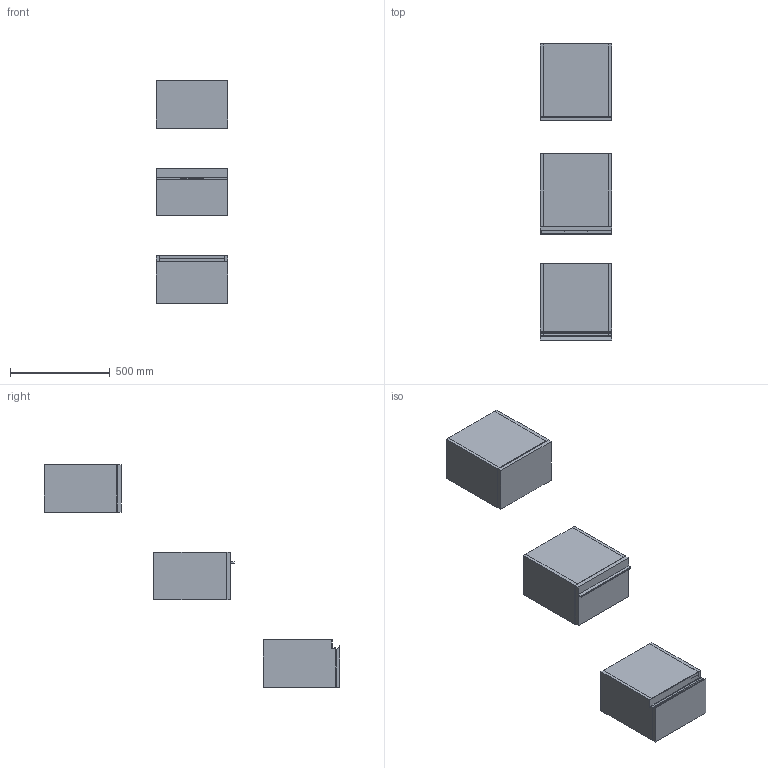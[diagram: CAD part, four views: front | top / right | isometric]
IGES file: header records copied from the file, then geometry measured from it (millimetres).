
Start section: Data from Parasolid IGES Translator 19.0.9, Copyright(c) 2006 Siemens PL M Software. All Rights Reserved.
Global section: file name: noorth-SI-H 24 D 38,8 W 36_8243.igs; native system: By Siemens PLM Incorporated; preprocessor: XPlus GENERIC/IGES 19.0.9; author: Noname; organization: Noname; date: 20200530.103852; units: metre
Bounding box: 360.02 x 1485.97 x 1120 mm (x, y, z)
Volume: 25063031.6 mm3; surface area: 3757438.7 mm2
Topology: 20 solids, 20 shells, 178 faces, 382 edges, 234 vertices
Faces by surface type: plane 134, extrusion 16, bspline 16, cylinder 12
